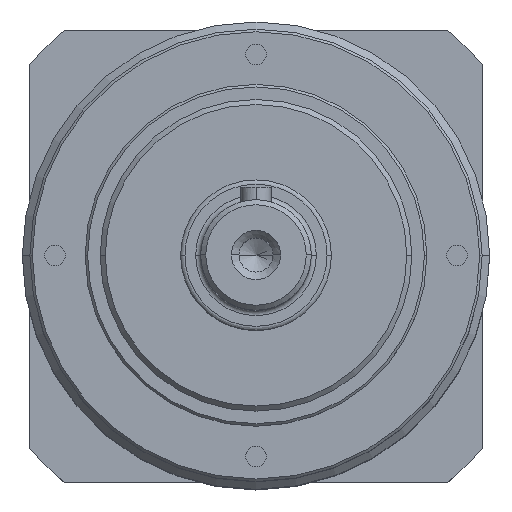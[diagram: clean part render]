
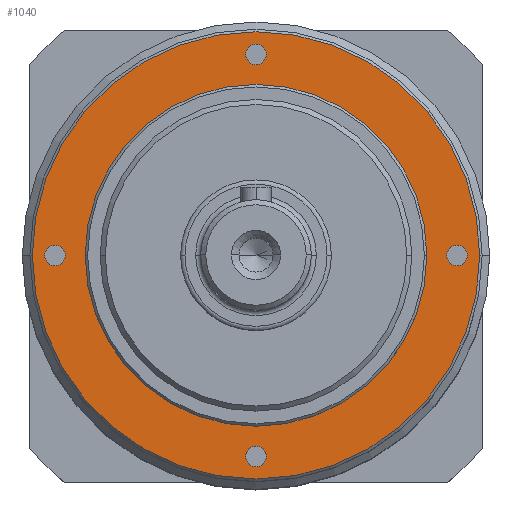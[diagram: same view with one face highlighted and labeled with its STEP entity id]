
A CAD part, top view. The second image highlights one B-rep face of the part: STEP entity #1040.
In plain terms, the highlighted planar face has unit normal (0, 0, 1).
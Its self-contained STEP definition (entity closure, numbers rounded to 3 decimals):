
#5 = ORIENTED_EDGE ( 'NONE', *, *, #827, .F. ) ;
#21 = VERTEX_POINT ( 'NONE', #2463 ) ;
#43 = VERTEX_POINT ( 'NONE', #1790 ) ;
#50 = DIRECTION ( 'NONE',  ( 1., 0., 0. ) ) ;
#73 = ORIENTED_EDGE ( 'NONE', *, *, #2287, .F. ) ;
#90 = CIRCLE ( 'NONE', #2807, 2.05 ) ;
#93 = CARTESIAN_POINT ( 'NONE',  ( -2.05, 40., 18. ) ) ;
#105 = VERTEX_POINT ( 'NONE', #1812 ) ;
#107 = AXIS2_PLACEMENT_3D ( 'NONE', #1585, #1090, #2278 ) ;
#121 = DIRECTION ( 'NONE',  ( 0., 0., 1. ) ) ;
#180 = EDGE_CURVE ( 'NONE', #2410, #747, #2429, .T. ) ;
#186 = ORIENTED_EDGE ( 'NONE', *, *, #180, .F. ) ;
#198 = EDGE_CURVE ( 'NONE', #967, #3062, #478, .T. ) ;
#207 = CIRCLE ( 'NONE', #1148, 2.05 ) ;
#280 = FACE_OUTER_BOUND ( 'NONE', #1912, .T. ) ;
#283 = EDGE_CURVE ( 'NONE', #21, #105, #207, .T. ) ;
#310 = ORIENTED_EDGE ( 'NONE', *, *, #2950, .T. ) ;
#323 = DIRECTION ( 'NONE',  ( 1., 0., 0. ) ) ;
#324 = FACE_BOUND ( 'NONE', #2566, .T. ) ;
#372 = CIRCLE ( 'NONE', #1565, 2.05 ) ;
#382 = CARTESIAN_POINT ( 'NONE',  ( 37.95, 0., 18. ) ) ;
#401 = CIRCLE ( 'NONE', #1666, 2.05 ) ;
#421 = DIRECTION ( 'NONE',  ( 0., 0., 1. ) ) ;
#423 = CARTESIAN_POINT ( 'NONE',  ( 2.05, 40., 18. ) ) ;
#472 = ORIENTED_EDGE ( 'NONE', *, *, #971, .F. ) ;
#478 = CIRCLE ( 'NONE', #1516, 2.05 ) ;
#550 = DIRECTION ( 'NONE',  ( 0., 0., 1. ) ) ;
#605 = AXIS2_PLACEMENT_3D ( 'NONE', #2942, #421, #3169 ) ;
#614 = DIRECTION ( 'NONE',  ( 1., 0., 0. ) ) ;
#633 = DIRECTION ( 'NONE',  ( 0., 0., 1. ) ) ;
#670 = FACE_BOUND ( 'NONE', #2774, .T. ) ;
#680 = CARTESIAN_POINT ( 'NONE',  ( 0., -40., 18. ) ) ;
#747 = VERTEX_POINT ( 'NONE', #423 ) ;
#799 = PLANE ( 'NONE',  #107 ) ;
#825 = CARTESIAN_POINT ( 'NONE',  ( 40., 0., 18. ) ) ;
#826 = DIRECTION ( 'NONE',  ( 0., 0., 1. ) ) ;
#827 = EDGE_CURVE ( 'NONE', #747, #2410, #90, .T. ) ;
#833 = ORIENTED_EDGE ( 'NONE', *, *, #2127, .F. ) ;
#835 = DIRECTION ( 'NONE',  ( 1., 0., 0. ) ) ;
#856 = ORIENTED_EDGE ( 'NONE', *, *, #283, .F. ) ;
#864 = CARTESIAN_POINT ( 'NONE',  ( -34., 0., 18. ) ) ;
#905 = EDGE_CURVE ( 'NONE', #105, #21, #401, .T. ) ;
#919 = VERTEX_POINT ( 'NONE', #1781 ) ;
#960 = CARTESIAN_POINT ( 'NONE',  ( -2.05, -40., 18. ) ) ;
#967 = VERTEX_POINT ( 'NONE', #1897 ) ;
#971 = EDGE_CURVE ( 'NONE', #3062, #967, #1337, .T. ) ;
#992 = CIRCLE ( 'NONE', #1208, 34. ) ;
#1010 = ORIENTED_EDGE ( 'NONE', *, *, #2758, .F. ) ;
#1018 = AXIS2_PLACEMENT_3D ( 'NONE', #1105, #1070, #835 ) ;
#1040 = ADVANCED_FACE ( 'NONE', ( #1182, #1112, #324, #670, #1905, #280 ), #799, .T. ) ;
#1070 = DIRECTION ( 'NONE',  ( 0., 0., 1. ) ) ;
#1090 = DIRECTION ( 'NONE',  ( 0., 0., 1. ) ) ;
#1105 = CARTESIAN_POINT ( 'NONE',  ( 0., 40., 18. ) ) ;
#1112 = FACE_BOUND ( 'NONE', #2261, .T. ) ;
#1148 = AXIS2_PLACEMENT_3D ( 'NONE', #2095, #121, #614 ) ;
#1152 = CIRCLE ( 'NONE', #2174, 34. ) ;
#1155 = CARTESIAN_POINT ( 'NONE',  ( 40., 0., 18. ) ) ;
#1182 = FACE_BOUND ( 'NONE', #1967, .T. ) ;
#1208 = AXIS2_PLACEMENT_3D ( 'NONE', #2724, #2444, #2964 ) ;
#1270 = CARTESIAN_POINT ( 'NONE',  ( 0., 40., 18. ) ) ;
#1322 = CARTESIAN_POINT ( 'NONE',  ( 0., -40., 18. ) ) ;
#1337 = CIRCLE ( 'NONE', #2738, 2.05 ) ;
#1399 = VERTEX_POINT ( 'NONE', #864 ) ;
#1424 = CARTESIAN_POINT ( 'NONE',  ( 0., 0., 18. ) ) ;
#1481 = DIRECTION ( 'NONE',  ( 1., 0., 0. ) ) ;
#1507 = ORIENTED_EDGE ( 'NONE', *, *, #1521, .T. ) ;
#1516 = AXIS2_PLACEMENT_3D ( 'NONE', #1322, #2076, #323 ) ;
#1521 = EDGE_CURVE ( 'NONE', #1564, #43, #2809, .T. ) ;
#1564 = VERTEX_POINT ( 'NONE', #1919 ) ;
#1565 = AXIS2_PLACEMENT_3D ( 'NONE', #825, #2804, #2295 ) ;
#1585 = CARTESIAN_POINT ( 'NONE',  ( 0., 0., 18. ) ) ;
#1592 = AXIS2_PLACEMENT_3D ( 'NONE', #1155, #633, #2898 ) ;
#1659 = ORIENTED_EDGE ( 'NONE', *, *, #1997, .F. ) ;
#1666 = AXIS2_PLACEMENT_3D ( 'NONE', #2052, #826, #50 ) ;
#1690 = ORIENTED_EDGE ( 'NONE', *, *, #198, .F. ) ;
#1694 = CIRCLE ( 'NONE', #1592, 2.05 ) ;
#1781 = CARTESIAN_POINT ( 'NONE',  ( 34., 0., 18. ) ) ;
#1790 = CARTESIAN_POINT ( 'NONE',  ( 44.5, 0., 18. ) ) ;
#1812 = CARTESIAN_POINT ( 'NONE',  ( -42.05, 0., 18. ) ) ;
#1864 = AXIS2_PLACEMENT_3D ( 'NONE', #1424, #2925, #1929 ) ;
#1897 = CARTESIAN_POINT ( 'NONE',  ( 2.05, -40., 18. ) ) ;
#1905 = FACE_BOUND ( 'NONE', #2753, .T. ) ;
#1912 = EDGE_LOOP ( 'NONE', ( #1507, #310 ) ) ;
#1919 = CARTESIAN_POINT ( 'NONE',  ( -44.5, 0., 18. ) ) ;
#1929 = DIRECTION ( 'NONE',  ( 1., 0., 0. ) ) ;
#1967 = EDGE_LOOP ( 'NONE', ( #833, #1010 ) ) ;
#1997 = EDGE_CURVE ( 'NONE', #2537, #2368, #1694, .T. ) ;
#2052 = CARTESIAN_POINT ( 'NONE',  ( -40., 0., 18. ) ) ;
#2076 = DIRECTION ( 'NONE',  ( 0., 0., 1. ) ) ;
#2095 = CARTESIAN_POINT ( 'NONE',  ( -40., 0., 18. ) ) ;
#2120 = DIRECTION ( 'NONE',  ( 1., 0., 0. ) ) ;
#2127 = EDGE_CURVE ( 'NONE', #1399, #919, #992, .T. ) ;
#2167 = CARTESIAN_POINT ( 'NONE',  ( 42.05, 0., 18. ) ) ;
#2174 = AXIS2_PLACEMENT_3D ( 'NONE', #2840, #550, #2289 ) ;
#2261 = EDGE_LOOP ( 'NONE', ( #1659, #73 ) ) ;
#2278 = DIRECTION ( 'NONE',  ( 1., 0., 0. ) ) ;
#2287 = EDGE_CURVE ( 'NONE', #2368, #2537, #372, .T. ) ;
#2289 = DIRECTION ( 'NONE',  ( 1., 0., 0. ) ) ;
#2295 = DIRECTION ( 'NONE',  ( 1., 0., 0. ) ) ;
#2368 = VERTEX_POINT ( 'NONE', #382 ) ;
#2410 = VERTEX_POINT ( 'NONE', #93 ) ;
#2427 = DIRECTION ( 'NONE',  ( 0., 0., 1. ) ) ;
#2429 = CIRCLE ( 'NONE', #1018, 2.05 ) ;
#2444 = DIRECTION ( 'NONE',  ( 0., 0., 1. ) ) ;
#2463 = CARTESIAN_POINT ( 'NONE',  ( -37.95, 0., 18. ) ) ;
#2537 = VERTEX_POINT ( 'NONE', #2167 ) ;
#2566 = EDGE_LOOP ( 'NONE', ( #1690, #472 ) ) ;
#2724 = CARTESIAN_POINT ( 'NONE',  ( 0., 0., 18. ) ) ;
#2738 = AXIS2_PLACEMENT_3D ( 'NONE', #680, #2427, #2120 ) ;
#2753 = EDGE_LOOP ( 'NONE', ( #5, #186 ) ) ;
#2754 = CIRCLE ( 'NONE', #605, 44.5 ) ;
#2758 = EDGE_CURVE ( 'NONE', #919, #1399, #1152, .T. ) ;
#2774 = EDGE_LOOP ( 'NONE', ( #856, #3209 ) ) ;
#2804 = DIRECTION ( 'NONE',  ( 0., 0., 1. ) ) ;
#2807 = AXIS2_PLACEMENT_3D ( 'NONE', #1270, #3014, #1481 ) ;
#2809 = CIRCLE ( 'NONE', #1864, 44.5 ) ;
#2840 = CARTESIAN_POINT ( 'NONE',  ( 0., 0., 18. ) ) ;
#2898 = DIRECTION ( 'NONE',  ( 1., 0., 0. ) ) ;
#2925 = DIRECTION ( 'NONE',  ( 0., 0., 1. ) ) ;
#2942 = CARTESIAN_POINT ( 'NONE',  ( 0., 0., 18. ) ) ;
#2950 = EDGE_CURVE ( 'NONE', #43, #1564, #2754, .T. ) ;
#2964 = DIRECTION ( 'NONE',  ( 1., 0., 0. ) ) ;
#3014 = DIRECTION ( 'NONE',  ( 0., 0., 1. ) ) ;
#3062 = VERTEX_POINT ( 'NONE', #960 ) ;
#3169 = DIRECTION ( 'NONE',  ( 1., 0., 0. ) ) ;
#3209 = ORIENTED_EDGE ( 'NONE', *, *, #905, .F. ) ;
